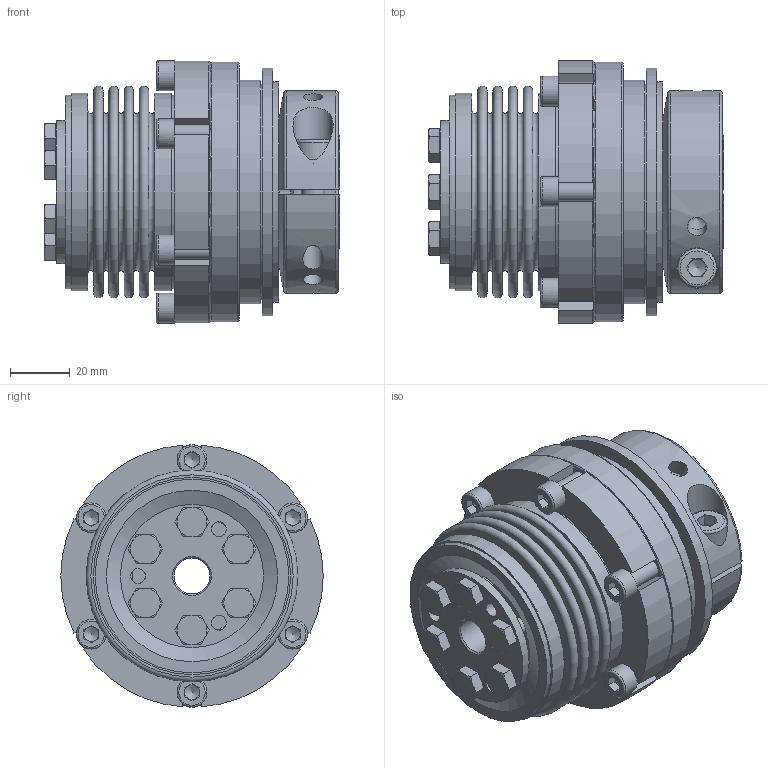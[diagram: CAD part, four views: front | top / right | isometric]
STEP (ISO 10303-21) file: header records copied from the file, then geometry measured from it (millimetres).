
FILE_DESCRIPTION( ( 'Unknown' ), '1' );
FILE_NAME( 'F:/JAKOB-STEP+IGES-Dateien/STEP-Dateien/SKB-KS/SKB-KS 100.stp', 'Unknown', ( 'Unknown' ), ( 'Unknown' ), 'PSStep 10.1', 'Unknown', ' ' );
FILE_SCHEMA( ( 'AUTOMOTIVE_DESIGN { 1 0 10303 214 1 1 1 1 }' ) );
Length unit declared in the file: millimetre
Products named in the file (1): kt101732-oa9
Bounding box: 99 x 88 x 88 mm (x, y, z)
Volume: 286575.7 mm3; surface area: 122179.7 mm2
Topology: 1 solids, 3 shells, 586 faces, 1578 edges, 1013 vertices
Faces by surface type: plane 295, cylinder 116, torus 88, cone 72, sphere 15
Full cylindrical faces by diameter (mm): 2 x2, 4.2 x1, 5 x16, 6 x12, 6.4 x6, 6.5 x3, 6.8 x1, 8 x1, 8.5 x1, 8.7 x6, 10 x6, 12 x1, 13 x1, 13.5 x1, 18 x1, 28.5 x1, 31 x1, 42.5 x1, 44 x1, 44.8 x1, 45 x2, 46 x1, 46.1 x1, 48 x1, 49 x1, 50 x1, 52.3 x2, 56 x1, 60.8 x2, 65 x2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
Entity records: 23388 total; most frequent: CARTESIAN_POINT 5390, DIRECTION 2760, ORIENTED_EDGE 2556, EDGE_CURVE 1278, AXIS2_PLACEMENT_3D 1151, VERTEX_POINT 895, EDGE_LOOP 858, FACE_OUTER_BOUND 706
